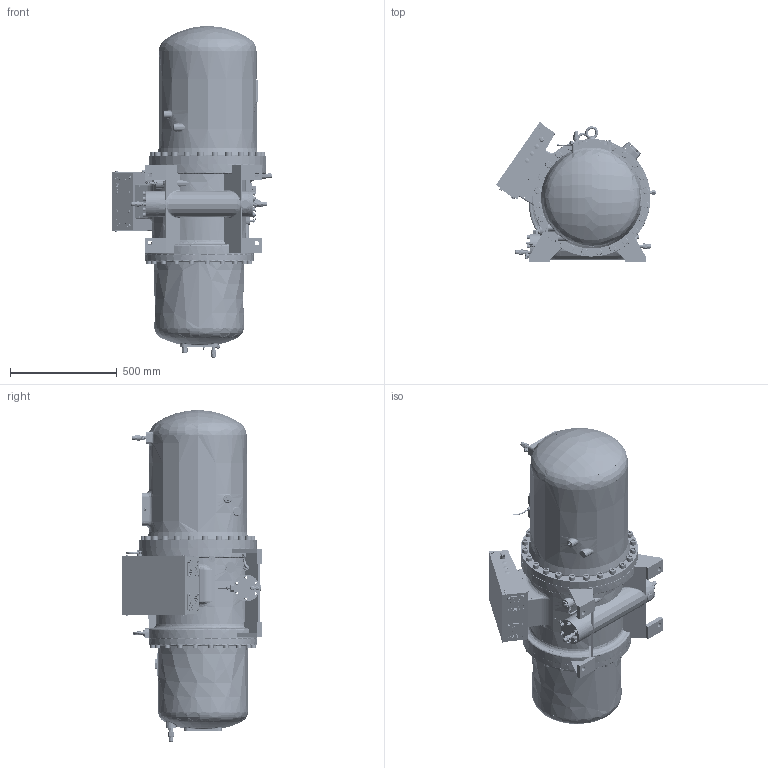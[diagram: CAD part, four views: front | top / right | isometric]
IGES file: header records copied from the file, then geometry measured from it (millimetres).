
Global section: file name: RC2-580A&B outline; native system: Autodesk Inventor 2017; preprocessor: unknown; author: hedylu; date: 20170626.163735; units: centimetre
Bounding box: 749.47 x 655.17 x 1553.98 mm (x, y, z)
Surface area: 5030629.4 mm2 (no closed solid volume)
Topology: 0 solids, 0 shells, 2795 faces, 35248 edges, 35227 vertices
Faces by surface type: bspline 1474, revolution 1321
